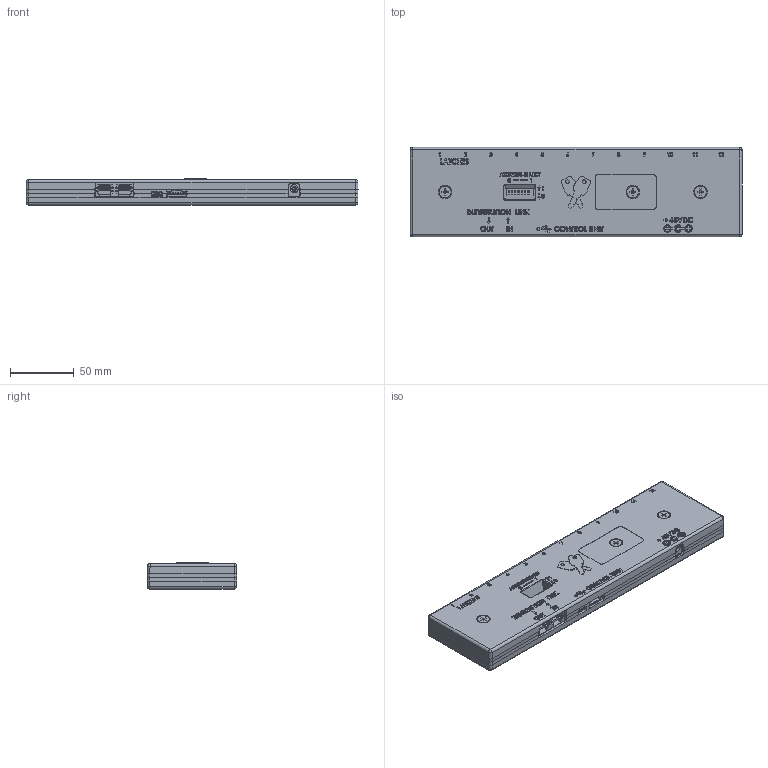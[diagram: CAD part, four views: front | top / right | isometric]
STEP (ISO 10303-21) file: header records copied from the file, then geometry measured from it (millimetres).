
FILE_DESCRIPTION (( 'STEP AP214' ), '1' );
FILE_NAME ('37910H_Blade.STEP', '2020-07-22T12:31:46', ( '' ), ( '' ), 'SwSTEP 2.0', 'SolidWorks 2020', '' );
FILE_SCHEMA (( 'AUTOMOTIVE_DESIGN' ));
Length unit declared in the file: millimetre
Products named in the file (1): 37910H_Blade
Bounding box: 260 x 70.05 x 20.5 mm (x, y, z)
Volume: 130366.1 mm3; surface area: 151751 mm2
Topology: 28 solids, 29 shells, 5133 faces, 14347 edges, 9432 vertices
Faces by surface type: plane 3889, cylinder 801, bspline 324, cone 87, torus 20, sphere 12
Entity records: 237426 total; most frequent: CARTESIAN_POINT 50001, ORIENTED_EDGE 28658, DIRECTION 24574, EDGE_CURVE 14329, VECTOR 11738, LINE 11738, VERTEX_POINT 9432, AXIS2_PLACEMENT_3D 6418
